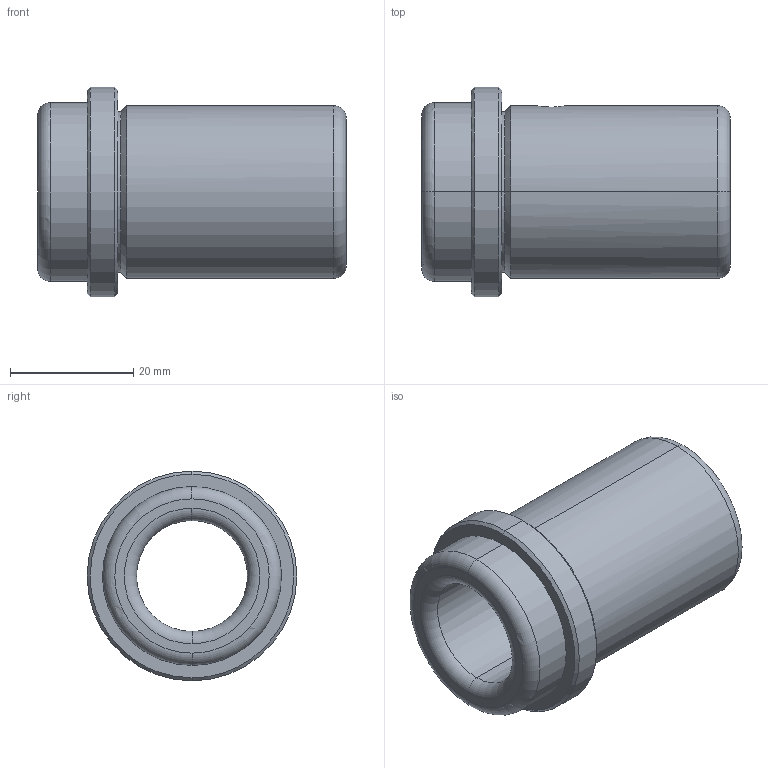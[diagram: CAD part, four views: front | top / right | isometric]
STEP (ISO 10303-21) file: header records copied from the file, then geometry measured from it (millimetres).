
FILE_DESCRIPTION(('CATIA V5 STEP Exchange'),'2;1');
FILE_NAME('C:\Users\Utente\Desktop\IO LAVORO\3D X SITO CF\X SITO\CF 632\CF 632 18 x 50.stp','2020-12-26T19:39:51+00:00',('none'),('none'),'CATIA Version 5 Release 20 GA (IN-10)','CATIA V5 STEP AP203','none');
FILE_SCHEMA(('CONFIG_CONTROL_DESIGN'));
Length unit declared in the file: millimetre
Products named in the file (1): CF 632 18 x 50
Bounding box: 50 x 34 x 34 mm (x, y, z)
Volume: 19261 mm3; surface area: 8612.6 mm2
Topology: 1 solids, 1 shells, 33 faces, 105 edges, 77 vertices
Faces by surface type: cylinder 12, torus 8, cone 8, plane 5
Entity records: 1425 total; most frequent: CARTESIAN_POINT 454, ORIENTED_EDGE 210, DIRECTION 156, EDGE_CURVE 105, AXIS2_PLACEMENT_3D 104, VERTEX_POINT 77, CIRCLE 70, EDGE_LOOP 40
